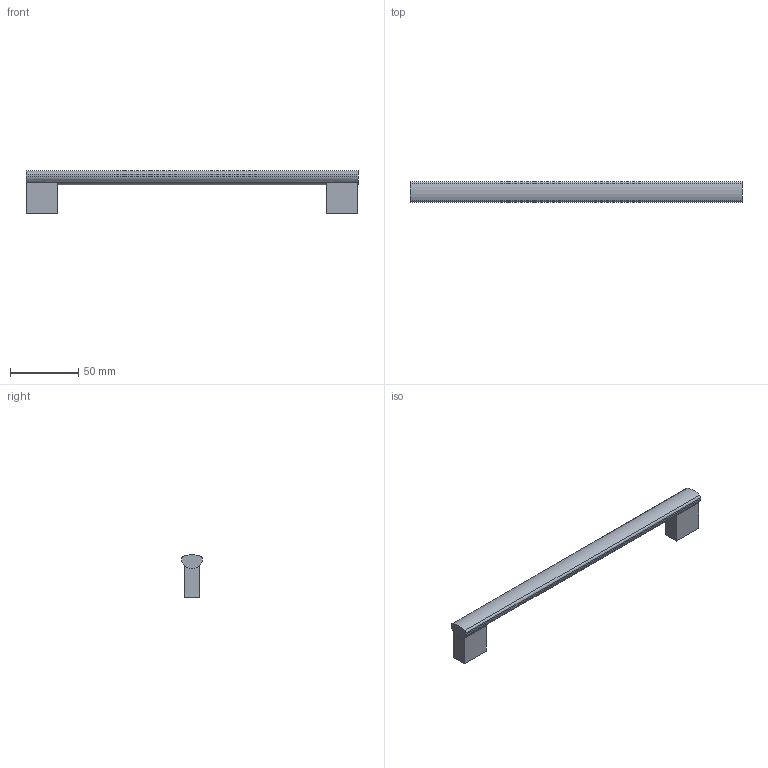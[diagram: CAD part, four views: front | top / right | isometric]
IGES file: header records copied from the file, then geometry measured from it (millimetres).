
Start section: Data from XPlus IGES,  Spatial Corp. Copyright (c) 1999-2004
Global section: file name: 115356.igs; native system:  By Spatial Corp.; preprocessor: XPlus ACIS/IGES 3.0; author: Noname; organization: Noname; date: 20130226.190325; units: millimetre
Bounding box: 244 x 15 x 31.44 mm (x, y, z)
Surface area: 13655.8 mm2 (no closed solid volume)
Topology: 0 solids, 0 shells, 30 faces, 144 edges, 144 vertices
Faces by surface type: extrusion 20, revolution 10
